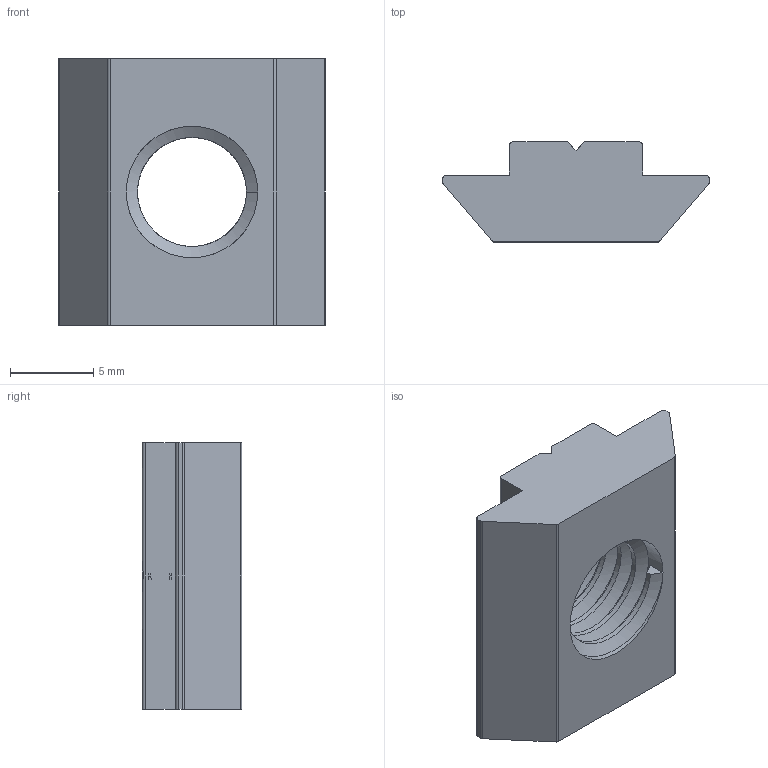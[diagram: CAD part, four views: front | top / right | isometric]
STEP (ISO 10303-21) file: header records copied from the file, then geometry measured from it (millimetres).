
FILE_DESCRIPTION (( 'STEP AP214' ), '1' );
FILE_NAME ('8-3-M8.STEP', '2019-01-12T15:35:41', ( '' ), ( '' ), 'SwSTEP 2.0', 'SolidWorks 2018', '' );
FILE_SCHEMA (( 'AUTOMOTIVE_DESIGN' ));
Length unit declared in the file: millimetre
Products named in the file (1): 8-3-M8
Bounding box: 16 x 6 x 16 mm (x, y, z)
Volume: 862.7 mm3; surface area: 901.4 mm2
Topology: 1 solids, 1 shells, 47 faces, 135 edges, 89 vertices
Faces by surface type: cylinder 19, plane 18, bspline 7, cone 3
Entity records: 2943 total; most frequent: CARTESIAN_POINT 1805, ORIENTED_EDGE 270, DIRECTION 188, EDGE_CURVE 135, VERTEX_POINT 89, AXIS2_PLACEMENT_3D 63, VECTOR 62, LINE 62
